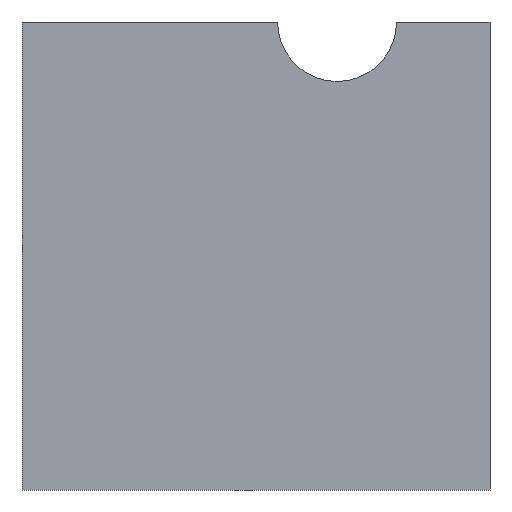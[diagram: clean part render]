
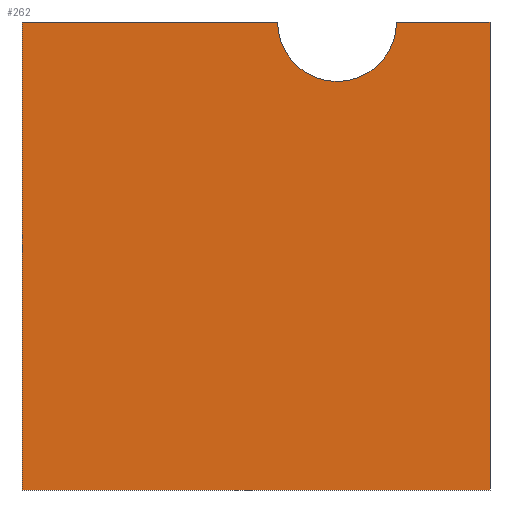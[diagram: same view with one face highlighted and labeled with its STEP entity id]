
A CAD part, front view. The second image highlights one B-rep face of the part: STEP entity #262.
In plain terms, the highlighted planar face has unit normal (0, -1, 0).
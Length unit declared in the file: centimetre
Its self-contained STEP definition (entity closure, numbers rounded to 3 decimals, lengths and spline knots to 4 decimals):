
#3 = VERTEX_POINT ( 'NONE', #357 ) ;
#9 = EDGE_LOOP ( 'NONE', ( #322, #154, #98, #243, #351, #176 ) ) ;
#19 = LINE ( 'NONE', #138, #236 ) ;
#21 = DIRECTION ( 'NONE',  ( 0., 1., 0. ) ) ;
#27 = CARTESIAN_POINT ( 'NONE',  ( 546.1983, 0., 1000. ) ) ;
#53 = LINE ( 'NONE', #273, #316 ) ;
#60 = EDGE_CURVE ( 'NONE', #239, #3, #53, .T. ) ;
#74 = DIRECTION ( 'NONE',  ( 1., 0., 0. ) ) ;
#84 = VECTOR ( 'NONE', #168, 100. ) ;
#86 = CARTESIAN_POINT ( 'NONE',  ( 0., 0., 1000. ) ) ;
#90 = LINE ( 'NONE', #363, #326 ) ;
#95 = EDGE_CURVE ( 'NONE', #263, #113, #151, .T. ) ;
#98 = ORIENTED_EDGE ( 'NONE', *, *, #347, .F. ) ;
#101 = EDGE_CURVE ( 'NONE', #244, #3, #19, .T. ) ;
#107 = LINE ( 'NONE', #86, #128 ) ;
#113 = VERTEX_POINT ( 'NONE', #27 ) ;
#128 = VECTOR ( 'NONE', #74, 100. ) ;
#133 = DIRECTION ( 'NONE',  ( 0., 1., 0. ) ) ;
#138 = CARTESIAN_POINT ( 'NONE',  ( 1000., 0., 1000. ) ) ;
#144 = CARTESIAN_POINT ( 'NONE',  ( 0., 0., 1000. ) ) ;
#151 = CIRCLE ( 'NONE', #355, 127.0367 ) ;
#154 = ORIENTED_EDGE ( 'NONE', *, *, #95, .T. ) ;
#163 = LINE ( 'NONE', #252, #84 ) ;
#167 = CARTESIAN_POINT ( 'NONE',  ( 0., 0., 1000. ) ) ;
#168 = DIRECTION ( 'NONE',  ( 0., 0., -1. ) ) ;
#176 = ORIENTED_EDGE ( 'NONE', *, *, #101, .F. ) ;
#199 = FACE_OUTER_BOUND ( 'NONE', #9, .T. ) ;
#213 = AXIS2_PLACEMENT_3D ( 'NONE', #167, #21, #367 ) ;
#219 = EDGE_CURVE ( 'NONE', #263, #244, #90, .T. ) ;
#232 = CARTESIAN_POINT ( 'NONE',  ( 1000., 0., 1000. ) ) ;
#236 = VECTOR ( 'NONE', #254, 100. ) ;
#239 = VERTEX_POINT ( 'NONE', #314 ) ;
#243 = ORIENTED_EDGE ( 'NONE', *, *, #348, .T. ) ;
#244 = VERTEX_POINT ( 'NONE', #232 ) ;
#252 = CARTESIAN_POINT ( 'NONE',  ( 0., 0., 1000. ) ) ;
#254 = DIRECTION ( 'NONE',  ( 0., 0., -1. ) ) ;
#262 = ADVANCED_FACE ( 'NONE', ( #199 ), #287, .F. ) ;
#263 = VERTEX_POINT ( 'NONE', #342 ) ;
#273 = CARTESIAN_POINT ( 'NONE',  ( 0., 0., 0. ) ) ;
#274 = VERTEX_POINT ( 'NONE', #144 ) ;
#277 = DIRECTION ( 'NONE',  ( 0., 0., 1. ) ) ;
#287 = PLANE ( 'NONE',  #213 ) ;
#303 = CARTESIAN_POINT ( 'NONE',  ( 673.235, 0., 1000. ) ) ;
#314 = CARTESIAN_POINT ( 'NONE',  ( 0., 0., 0. ) ) ;
#316 = VECTOR ( 'NONE', #362, 100. ) ;
#322 = ORIENTED_EDGE ( 'NONE', *, *, #219, .F. ) ;
#326 = VECTOR ( 'NONE', #335, 100. ) ;
#335 = DIRECTION ( 'NONE',  ( 1., 0., 0. ) ) ;
#342 = CARTESIAN_POINT ( 'NONE',  ( 800.2717, 0., 1000. ) ) ;
#347 = EDGE_CURVE ( 'NONE', #274, #113, #107, .T. ) ;
#348 = EDGE_CURVE ( 'NONE', #274, #239, #163, .T. ) ;
#351 = ORIENTED_EDGE ( 'NONE', *, *, #60, .T. ) ;
#355 = AXIS2_PLACEMENT_3D ( 'NONE', #303, #133, #277 ) ;
#357 = CARTESIAN_POINT ( 'NONE',  ( 1000., 0., 0. ) ) ;
#362 = DIRECTION ( 'NONE',  ( 1., 0., 0. ) ) ;
#363 = CARTESIAN_POINT ( 'NONE',  ( 0., 0., 1000. ) ) ;
#367 = DIRECTION ( 'NONE',  ( 0., 0., 1. ) ) ;
